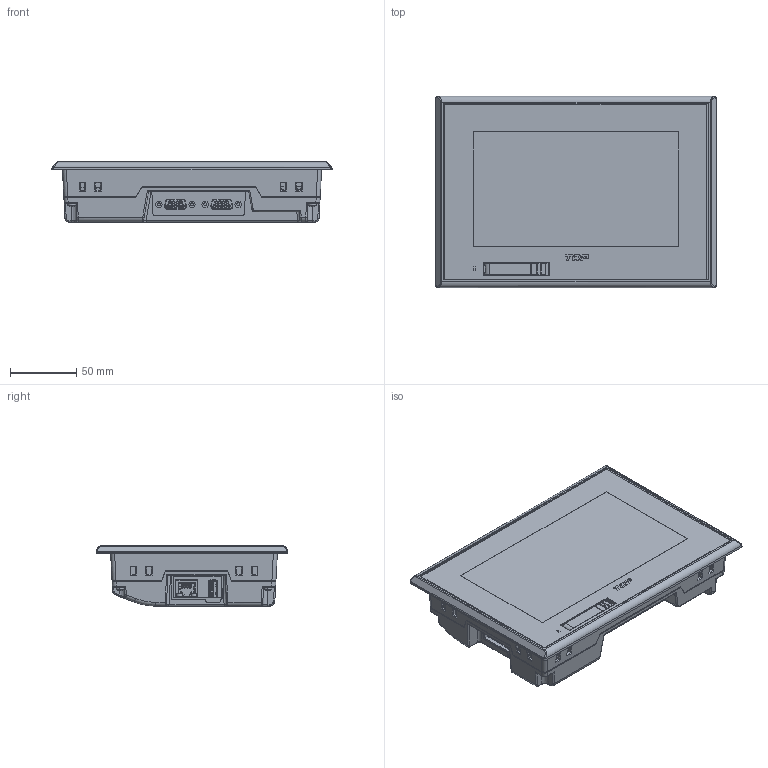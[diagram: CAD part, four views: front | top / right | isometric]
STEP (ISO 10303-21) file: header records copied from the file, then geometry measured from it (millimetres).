
FILE_DESCRIPTION((''),'2;1');
FILE_NAME('3D-TOPRW0700WD','2017-12-28T',('bckim'),(''),'CREO PARAMETRIC BY PTC INC, 2016260','CREO PARAMETRIC BY PTC INC, 2016260','');
FILE_SCHEMA(('CONFIG_CONTROL_DESIGN'));
Products named in the file (1): 3D-TOPRW0700WD
Bounding box: 212 x 145 x 45.66 mm (x, y, z)
Volume: 1032626.4 mm3; surface area: 112693.3 mm2
Topology: 1 solids, 10 shells, 2749 faces, 7866 edges, 5241 vertices
Faces by surface type: plane 1965, cylinder 452, torus 111, cone 107, extrusion 72, bspline 30, sphere 12
Entity records: 94080 total; most frequent: CARTESIAN_POINT 23009, ORIENTED_EDGE 15716, DIRECTION 13267, EDGE_CURVE 7858, VECTOR 5839, LINE 5767, VERTEX_POINT 5241, AXIS2_PLACEMENT_3D 3714
